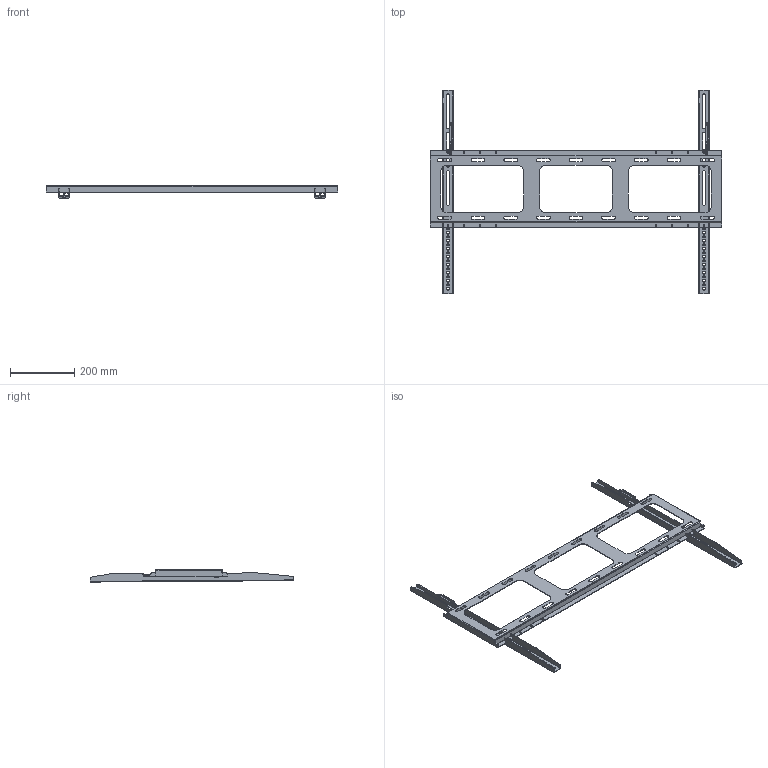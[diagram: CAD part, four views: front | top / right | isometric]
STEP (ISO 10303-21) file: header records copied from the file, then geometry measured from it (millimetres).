
FILE_DESCRIPTION((''),'2;1');
FILE_NAME('ASM-WALL-MOUNT_75-98_AWH0KF_02_ASM','2025-02-19T',('As06888'),(''),'CREO PARAMETRIC BY PTC INC, 2015080','CREO PARAMETRIC BY PTC INC, 2015080','');
FILE_SCHEMA(('AUTOMOTIVE_DESIGN { 1 0 10303 214 1 1 1 1 }'));
Products named in the file (11): S_86-98_SLZJ_ASSY_11_1_2_1_1; BSO-M3-15_1_3_1_1_1_1; SRD04-16618_7B11-051031-0030511; S_75T86_V-BEAM-SPT_01_ASM_1_ASM_ASM; 86-98_HLZJ_ASSY_18_1_2_1_1_1; 0-86-98_BIGUA-ASSY_ASM_15_ASM_A_ASM; SRD04-17143_ASM_1_ASM_1_ASM_1_ASM; S_86T98_H-BEAM-SPT_03_ASM_1_ASM_ASM; S_SCR_M4X10_R7X3-P_SPW_1; 0_ASSY_A-WH0KF_ASM_6_ASM_1_ASM; ASM-WALL-MOUNT_75-98_AWH0KF_02_ASM
Assembly tree (12 placements, depth 6):
  ASM-WALL-MOUNT_75-98_AWH0KF_02_ASM
    0_ASSY_A-WH0KF_ASM_6_ASM_1_ASM
      S_75T86_V-BEAM-SPT_01_ASM_1_ASM_ASM  x2
        S_86-98_SLZJ_ASSY_11_1_2_1_1
        BSO-M3-15_1_3_1_1_1_1
        SRD04-16618_7B11-051031-0030511
      S_86T98_H-BEAM-SPT_03_ASM_1_ASM_ASM
        SRD04-17143_ASM_1_ASM_1_ASM_1_ASM
          0-86-98_BIGUA-ASSY_ASM_15_ASM_A_ASM
            86-98_HLZJ_ASSY_18_1_2_1_1_1
      S_SCR_M4X10_R7X3-P_SPW_1  x2
Bounding box: 912.01 x 635.08 x 37.93 mm (x, y, z)
Volume: 452352.1 mm3; surface area: 478465.9 mm2
Topology: 9 solids, 11 shells, 1380 faces, 3926 edges, 2582 vertices
Faces by surface type: cylinder 699, plane 497, bspline 132, cone 24, torus 24, revolution 4
Entity records: 74730 total; most frequent: CARTESIAN_POINT 48239, ORIENTED_EDGE 5050, DIRECTION 4215, EDGE_CURVE 2527, VERTEX_POINT 1662, VECTOR 1475, LINE 1475, AXIS2_PLACEMENT_3D 1369
